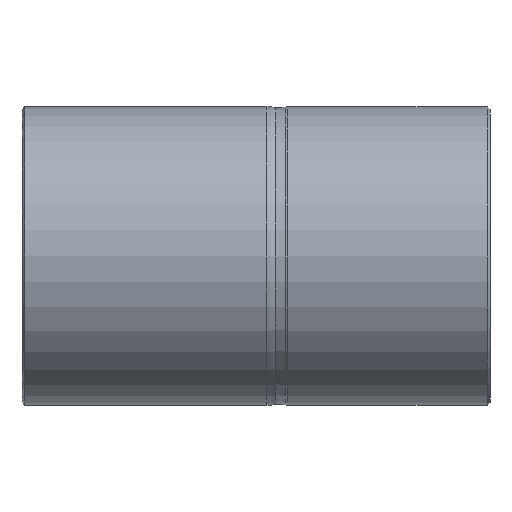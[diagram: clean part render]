
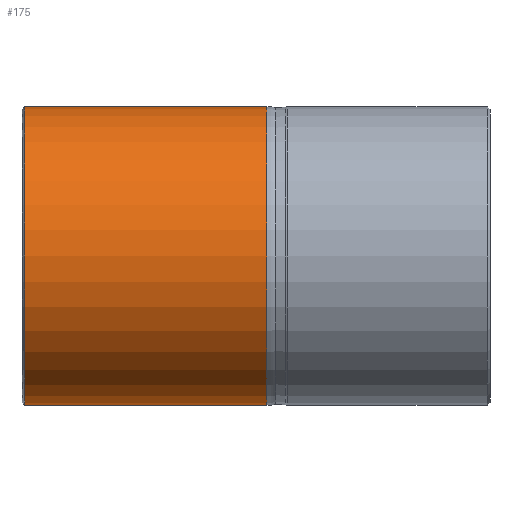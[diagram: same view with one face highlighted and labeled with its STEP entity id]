
A CAD part, front view. The second image highlights one B-rep face of the part: STEP entity #175.
In plain terms, the highlighted cylindrical face has radius 11.113 mm (diameter 22.225 mm), a full revolution.
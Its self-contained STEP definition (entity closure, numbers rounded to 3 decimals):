
#144=CARTESIAN_POINT('',(-21.2,11.113,0.));
#145=VERTEX_POINT('',#144);
#146=CARTESIAN_POINT('',(-21.2,0.0,0.0));
#147=DIRECTION('',(-1.0,0.0,0.0));
#148=DIRECTION('',(0.0,-1.0,0.0));
#149=AXIS2_PLACEMENT_3D('',#146,#147,#148);
#150=CIRCLE('',#149,11.113);
#151=EDGE_CURVE('',#145,#145,#150,.T.);
#156=CARTESIAN_POINT('',(-12.3,0.0,0.0));
#157=DIRECTION('',(1.0,0.0,0.0));
#158=DIRECTION('',(0.0,1.0,0.0));
#159=AXIS2_PLACEMENT_3D('',#156,#157,#158);
#160=CYLINDRICAL_SURFACE('',#159,11.113);
#161=CARTESIAN_POINT('',(-3.2,11.113,0.0));
#162=VERTEX_POINT('',#161);
#163=CARTESIAN_POINT('',(-3.2,0.0,0.0));
#164=DIRECTION('',(1.0,0.0,0.0));
#165=DIRECTION('',(0.0,1.0,0.0));
#166=AXIS2_PLACEMENT_3D('',#163,#164,#165);
#167=CIRCLE('',#166,11.113);
#168=EDGE_CURVE('',#162,#162,#167,.T.);
#169=ORIENTED_EDGE('',*,*,#168,.F.);
#170=EDGE_LOOP('',(#169));
#171=FACE_OUTER_BOUND('',#170,.T.);
#172=ORIENTED_EDGE('',*,*,#151,.F.);
#173=EDGE_LOOP('',(#172));
#174=FACE_BOUND('',#173,.T.);
#175=ADVANCED_FACE('',(#171,#174),#160,.T.);
